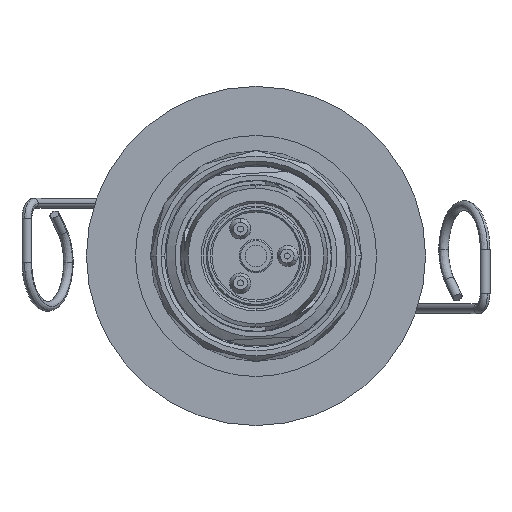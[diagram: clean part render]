
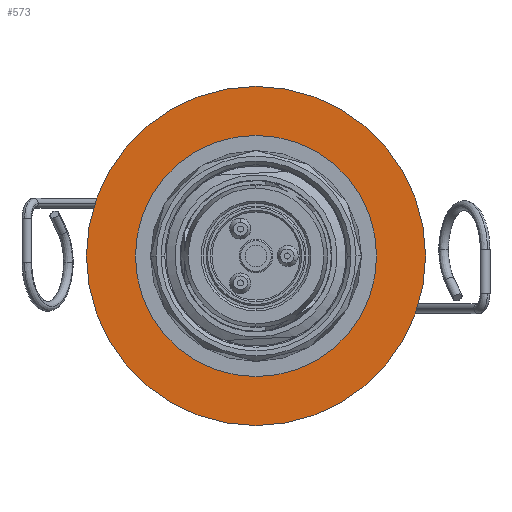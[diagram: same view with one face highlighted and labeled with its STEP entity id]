
A CAD part, front view. The second image highlights one B-rep face of the part: STEP entity #573.
In plain terms, the highlighted planar face has unit normal (0, -1, 0).
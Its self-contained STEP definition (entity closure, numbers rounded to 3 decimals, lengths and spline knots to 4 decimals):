
#276=FACE_BOUND('',#6202,.T.);
#573=ADVANCED_FACE('',(#3387,#276),#44166,.T.);
#3387=FACE_OUTER_BOUND('',#6201,.T.);
#6201=EDGE_LOOP('',(#9314,#9315));
#6202=EDGE_LOOP('',(#9316,#9317));
#9314=ORIENTED_EDGE('',*,*,#24016,.F.);
#9315=ORIENTED_EDGE('',*,*,#24020,.F.);
#9316=ORIENTED_EDGE('',*,*,#24036,.F.);
#9317=ORIENTED_EDGE('',*,*,#24039,.F.);
#24016=EDGE_CURVE('',#39325,#39326,#38119,.T.);
#24020=EDGE_CURVE('',#39326,#39325,#38121,.T.);
#24036=EDGE_CURVE('',#39329,#39330,#38132,.T.);
#24039=EDGE_CURVE('',#39330,#39329,#38134,.T.);
#38119=TRIMMED_CURVE($,#38722,(#53817),(#53818),.T.,.CARTESIAN.);
#38121=TRIMMED_CURVE($,#38724,(#53827),(#53828),.T.,.CARTESIAN.);
#38132=TRIMMED_CURVE($,#38735,(#53870),(#53871),.T.,.CARTESIAN.);
#38134=TRIMMED_CURVE($,#38737,(#53878),(#53879),.T.,.CARTESIAN.);
#38722=CIRCLE('',#46840,2.25);
#38724=CIRCLE('',#46842,2.25);
#38735=CIRCLE('',#46853,1.6);
#38737=CIRCLE('',#46855,1.6);
#39325=VERTEX_POINT('',#53800);
#39326=VERTEX_POINT('',#53801);
#39329=VERTEX_POINT('',#53804);
#39330=VERTEX_POINT('',#53805);
#44166=PLANE('',#46829);
#46829=AXIS2_PLACEMENT_3D('',#53789,#50008,$);
#46840=AXIS2_PLACEMENT_3D($,#53816,#50019,#50020);
#46842=AXIS2_PLACEMENT_3D($,#53826,#50023,#50024);
#46853=AXIS2_PLACEMENT_3D($,#53869,#50045,#50046);
#46855=AXIS2_PLACEMENT_3D($,#53877,#50049,#50050);
#50008=DIRECTION('',(0.,-1.,0.));
#50019=DIRECTION('',(0.,1.,0.));
#50020=DIRECTION('',(1.,0.,0.));
#50023=DIRECTION('',(0.,1.,0.));
#50024=DIRECTION('',(-1.,0.,0.));
#50045=DIRECTION('',(0.,-1.,0.));
#50046=DIRECTION('',(1.,0.,0.));
#50049=DIRECTION('',(0.,-1.,0.));
#50050=DIRECTION('',(-1.,0.,0.));
#53789=CARTESIAN_POINT('',(-2.7089,0.,2.7089));
#53800=CARTESIAN_POINT('',(2.25,0.,0.));
#53801=CARTESIAN_POINT('',(-2.25,0.,0.));
#53804=CARTESIAN_POINT('',(1.6,0.,0.));
#53805=CARTESIAN_POINT('',(-1.6,0.,0.));
#53816=CARTESIAN_POINT('',(0.,0.,0.));
#53817=CARTESIAN_POINT('',(2.25,0.,0.));
#53818=CARTESIAN_POINT('',(-2.25,0.,0.));
#53826=CARTESIAN_POINT('',(0.,0.,0.));
#53827=CARTESIAN_POINT('',(-2.25,0.,0.));
#53828=CARTESIAN_POINT('',(2.25,0.,0.));
#53869=CARTESIAN_POINT('',(0.,0.,0.));
#53870=CARTESIAN_POINT('',(1.6,0.,0.));
#53871=CARTESIAN_POINT('',(-1.6,0.,0.));
#53877=CARTESIAN_POINT('',(0.,0.,0.));
#53878=CARTESIAN_POINT('',(-1.6,0.,0.));
#53879=CARTESIAN_POINT('',(1.6,0.,0.));
